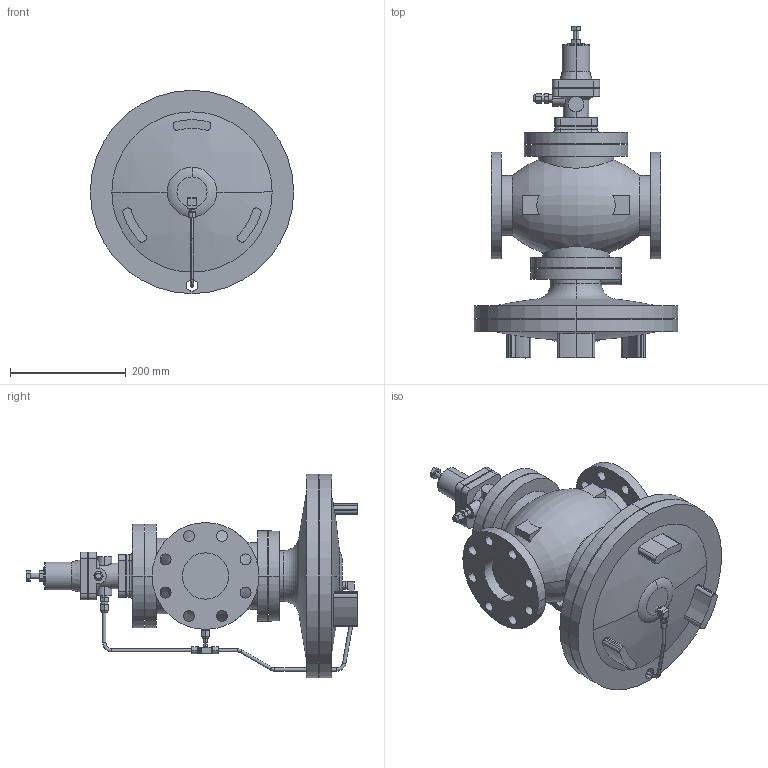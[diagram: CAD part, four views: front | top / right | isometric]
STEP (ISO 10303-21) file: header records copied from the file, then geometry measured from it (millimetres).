
FILE_DESCRIPTION (( 'STEP AP203' ), '1' );
FILE_NAME ('GPR-2000 JIS10K 80A.STEP', '2025-12-05T02:52:21', ( '' ), ( '' ), 'SwSTEP 2.0', 'SolidWorks 2024', '' );
FILE_SCHEMA (( 'CONFIG_CONTROL_DESIGN' ));
Length unit declared in the file: millimetre
Products named in the file (8): Pipe C 80A; Elbow; Tee; GP-2000 Pipe A 80A; Pipe B 80A; Joint; GPR-2000 Body Assy EN PN25 80A; GPR-2000 JIS10K 80A
Assembly tree (9 placements, depth 2):
  GPR-2000 JIS10K 80A
    GPR-2000 Body Assy EN PN25 80A
    Tee
    Joint  x3
    Pipe B 80A
    GP-2000 Pipe A 80A
    Elbow
    Pipe C 80A
Bounding box: 352 x 574.7 x 352 mm (x, y, z)
Volume: 13472933.6 mm3; surface area: 791625 mm2
Topology: 9 solids, 9 shells, 436 faces, 1071 edges, 707 vertices
Faces by surface type: cylinder 195, plane 190, cone 25, torus 22, sphere 4
Entity records: 13684 total; most frequent: CARTESIAN_POINT 3338, DIRECTION 2092, ORIENTED_EDGE 1874, EDGE_CURVE 937, AXIS2_PLACEMENT_3D 825, VERTEX_POINT 611, EDGE_LOOP 476, LINE 442
